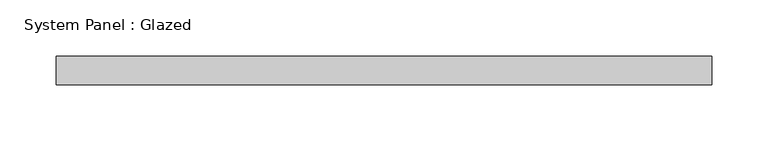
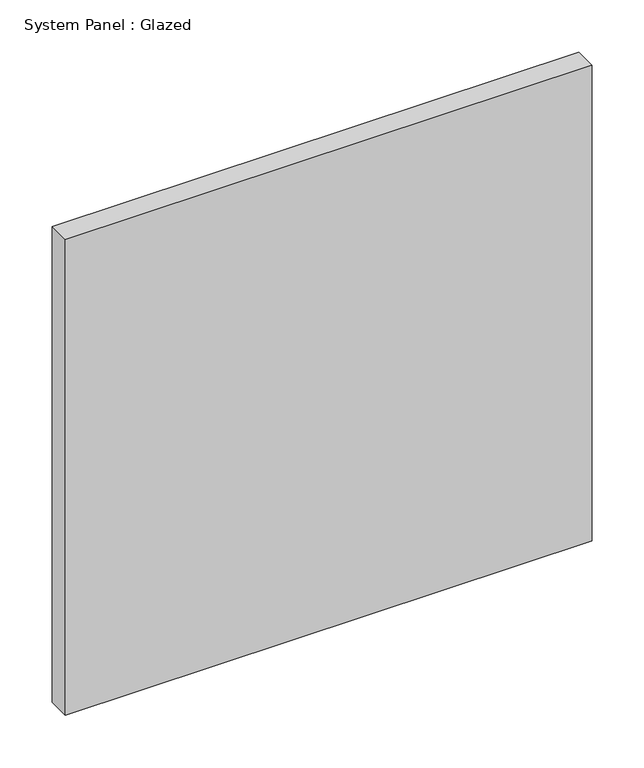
"""IFC4 building model written with IfcOpenShell, lengths in millimetres: plate geometry, System Panel : Glazed."""

from ifc_helpers import new_model, si_unit, origin, origin_with_axes, place, context, project, spatial, polyline, outline, extrude, source, transform, mapped, element, save


def system_panel_glazed_5ac43be7(model_context):
    return source(origin(), model_context, "Body", "SweptSolid", [
        extrude(outline(polyline([(292.4404829, -12.7), (-292.4404829, -12.7), (-292.4404829, 12.7), (292.4404829, 12.7), (292.4404829, -12.7)])), origin_with_axes(), (0.0, 0.0, 1.0), 558.8),
    ])


if __name__ == "__main__":
    model = new_model("IFC4")
    model_context = context("Model", 3, world=origin())
    ifc_project = project(units=[si_unit("LENGTHUNIT", "METRE", prefix="MILLI")], contexts=[model_context])
    site = spatial("IfcSite", under=ifc_project)
    building = spatial("IfcBuilding", under=site)
    placement = place(None, origin())
    system_panel_glazed_shape = system_panel_glazed_5ac43be7(model_context)
    element("IfcPlate", 1, ObjectType="System Panel : Glazed", at=placement, inside=building, context=model_context, shape_type="MappedRepresentation", body=[
        mapped(system_panel_glazed_shape, transform((0.0, 0.0, 0.0), x_axis=(1.0, 0.0, 0.0), y_axis=(0.0, 1.0, 0.0), z_axis=(0.0, 0.0, 1.0))),
    ])
    save(model, "model.ifc")
